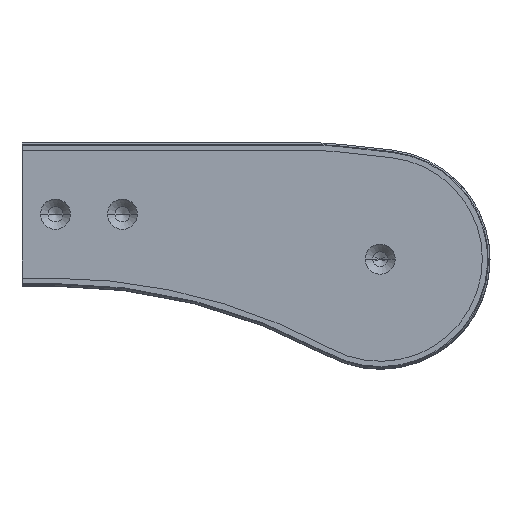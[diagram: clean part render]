
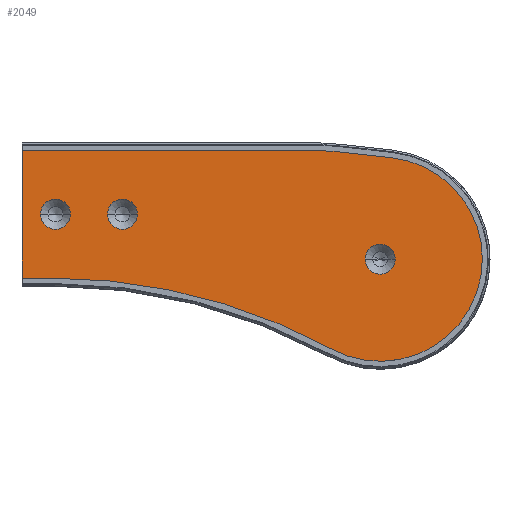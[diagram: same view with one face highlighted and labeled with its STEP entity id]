
A CAD part, top view. The second image highlights one B-rep face of the part: STEP entity #2049.
In plain terms, the highlighted planar face has unit normal (0, 0, 1).
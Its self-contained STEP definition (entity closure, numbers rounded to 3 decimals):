
#12 = CARTESIAN_POINT ( 'NONE',  ( 6.761, 60.624, 0. ) ) ;
#82 = ORIENTED_EDGE ( 'NONE', *, *, #1185, .T. ) ;
#91 = AXIS2_PLACEMENT_3D ( 'NONE', #636, #3279, #2991 ) ;
#114 = DIRECTION ( 'NONE',  ( 1., 0., 0. ) ) ;
#126 = CARTESIAN_POINT ( 'NONE',  ( -193.958, 26.862, 0. ) ) ;
#175 = CARTESIAN_POINT ( 'NONE',  ( 6.761, 60.624, 0. ) ) ;
#203 = EDGE_LOOP ( 'NONE', ( #3056, #249 ) ) ;
#214 = ORIENTED_EDGE ( 'NONE', *, *, #373, .T. ) ;
#219 = DIRECTION ( 'NONE',  ( 1., 0., 0. ) ) ;
#220 = CARTESIAN_POINT ( 'NONE',  ( -195.961, -11.288, 0. ) ) ;
#236 = AXIS2_PLACEMENT_3D ( 'NONE', #905, #2482, #1147 ) ;
#238 = ORIENTED_EDGE ( 'NONE', *, *, #1388, .T. ) ;
#249 = ORIENTED_EDGE ( 'NONE', *, *, #2150, .F. ) ;
#276 = AXIS2_PLACEMENT_3D ( 'NONE', #2308, #3370, #2033 ) ;
#283 = CARTESIAN_POINT ( 'NONE',  ( -202.918, 26.862, 0. ) ) ;
#316 = CARTESIAN_POINT ( 'NONE',  ( 8.96, 0., 0. ) ) ;
#349 = CARTESIAN_POINT ( 'NONE',  ( -43.607, 65.003, 0. ) ) ;
#357 = VECTOR ( 'NONE', #1154, 1000. ) ;
#373 = EDGE_CURVE ( 'NONE', #574, #400, #1200, .T. ) ;
#374 = ORIENTED_EDGE ( 'NONE', *, *, #2239, .F. ) ;
#389 = DIRECTION ( 'NONE',  ( -0.994, 0.111, 0. ) ) ;
#400 = VERTEX_POINT ( 'NONE', #2710 ) ;
#403 = LINE ( 'NONE', #2816, #2769 ) ;
#416 = CIRCLE ( 'NONE', #1512, 350.171 ) ;
#442 = LINE ( 'NONE', #12, #3307 ) ;
#447 = DIRECTION ( 'NONE',  ( 0., 0., 1. ) ) ;
#469 = AXIS2_PLACEMENT_3D ( 'NONE', #1757, #1263, #219 ) ;
#500 = VERTEX_POINT ( 'NONE', #1191 ) ;
#529 = EDGE_CURVE ( 'NONE', #500, #737, #2089, .T. ) ;
#541 = AXIS2_PLACEMENT_3D ( 'NONE', #126, #1732, #114 ) ;
#574 = VERTEX_POINT ( 'NONE', #3155 ) ;
#636 = CARTESIAN_POINT ( 'NONE',  ( 0., 0., 0. ) ) ;
#694 = CIRCLE ( 'NONE', #1085, 200. ) ;
#737 = VERTEX_POINT ( 'NONE', #283 ) ;
#781 = VERTEX_POINT ( 'NONE', #316 ) ;
#801 = DIRECTION ( 'NONE',  ( 0., 0., 1. ) ) ;
#832 = EDGE_LOOP ( 'NONE', ( #907, #374 ) ) ;
#861 = EDGE_CURVE ( 'NONE', #3163, #2183, #1120, .T. ) ;
#905 = CARTESIAN_POINT ( 'NONE',  ( -195.982, -361.459, 0. ) ) ;
#907 = ORIENTED_EDGE ( 'NONE', *, *, #2217, .F. ) ;
#959 = ORIENTED_EDGE ( 'NONE', *, *, #2934, .T. ) ;
#999 = DIRECTION ( 'NONE',  ( 0., 0., 1. ) ) ;
#1067 = CARTESIAN_POINT ( 'NONE',  ( -195.982, -361.459, 0. ) ) ;
#1085 = AXIS2_PLACEMENT_3D ( 'NONE', #1130, #2719, #2963 ) ;
#1087 = DIRECTION ( 'NONE',  ( 1., 0., 0. ) ) ;
#1098 = DIRECTION ( 'NONE',  ( 0., 0., -1. ) ) ;
#1106 = FACE_OUTER_BOUND ( 'NONE', #3144, .T. ) ;
#1108 = ORIENTED_EDGE ( 'NONE', *, *, #529, .F. ) ;
#1120 = CIRCLE ( 'NONE', #91, 61. ) ;
#1130 = CARTESIAN_POINT ( 'NONE',  ( -43.619, -134.997, 0. ) ) ;
#1147 = DIRECTION ( 'NONE',  ( 1., 0., 0. ) ) ;
#1154 = DIRECTION ( 'NONE',  ( -1., 0., 0. ) ) ;
#1170 = VERTEX_POINT ( 'NONE', #175 ) ;
#1185 = EDGE_CURVE ( 'NONE', #2183, #1170, #2316, .T. ) ;
#1191 = CARTESIAN_POINT ( 'NONE',  ( -184.998, 26.862, 0. ) ) ;
#1200 = LINE ( 'NONE', #349, #357 ) ;
#1207 = ORIENTED_EDGE ( 'NONE', *, *, #3044, .T. ) ;
#1208 = CARTESIAN_POINT ( 'NONE',  ( -213.961, -11.287, 0. ) ) ;
#1244 = CIRCLE ( 'NONE', #469, 8.96 ) ;
#1263 = DIRECTION ( 'NONE',  ( 0., 0., 1. ) ) ;
#1267 = AXIS2_PLACEMENT_3D ( 'NONE', #2793, #1721, #2818 ) ;
#1388 = EDGE_CURVE ( 'NONE', #3113, #574, #694, .T. ) ;
#1462 = CARTESIAN_POINT ( 'NONE',  ( -29.075, -53.625, 0. ) ) ;
#1467 = EDGE_CURVE ( 'NONE', #1170, #3113, #442, .T. ) ;
#1512 = AXIS2_PLACEMENT_3D ( 'NONE', #1067, #1098, #1087 ) ;
#1601 = AXIS2_PLACEMENT_3D ( 'NONE', #2558, #999, #2329 ) ;
#1624 = EDGE_CURVE ( 'NONE', #400, #3203, #403, .T. ) ;
#1721 = DIRECTION ( 'NONE',  ( 0., 0., 1. ) ) ;
#1732 = DIRECTION ( 'NONE',  ( 0., 0., 1. ) ) ;
#1738 = DIRECTION ( 'NONE',  ( 0., -1., 0. ) ) ;
#1752 = CIRCLE ( 'NONE', #2147, 8.96 ) ;
#1757 = CARTESIAN_POINT ( 'NONE',  ( 0., 0., 0. ) ) ;
#1780 = DIRECTION ( 'NONE',  ( 1., 0., 0. ) ) ;
#1844 = EDGE_CURVE ( 'NONE', #737, #500, #2468, .T. ) ;
#1848 = CARTESIAN_POINT ( 'NONE',  ( -144.998, 26.859, 0. ) ) ;
#1914 = LINE ( 'NONE', #2375, #3002 ) ;
#2030 = CARTESIAN_POINT ( 'NONE',  ( 61., 0., 0. ) ) ;
#2033 = DIRECTION ( 'NONE',  ( 1., 0., 0. ) ) ;
#2037 = VERTEX_POINT ( 'NONE', #3249 ) ;
#2049 = ADVANCED_FACE ( 'NONE', ( #2635, #2302, #3015, #1106 ), #2456, .T. ) ;
#2065 = VERTEX_POINT ( 'NONE', #2445 ) ;
#2089 = CIRCLE ( 'NONE', #1267, 8.96 ) ;
#2114 = ORIENTED_EDGE ( 'NONE', *, *, #1844, .F. ) ;
#2122 = CARTESIAN_POINT ( 'NONE',  ( 0., 0., 0. ) ) ;
#2143 = ORIENTED_EDGE ( 'NONE', *, *, #861, .T. ) ;
#2147 = AXIS2_PLACEMENT_3D ( 'NONE', #2122, #801, #3219 ) ;
#2150 = EDGE_CURVE ( 'NONE', #2065, #781, #1244, .T. ) ;
#2183 = VERTEX_POINT ( 'NONE', #2030 ) ;
#2217 = EDGE_CURVE ( 'NONE', #2975, #2037, #2848, .T. ) ;
#2239 = EDGE_CURVE ( 'NONE', #2037, #2975, #2632, .T. ) ;
#2302 = FACE_BOUND ( 'NONE', #832, .T. ) ;
#2308 = CARTESIAN_POINT ( 'NONE',  ( 0., 0., 0. ) ) ;
#2316 = CIRCLE ( 'NONE', #276, 61. ) ;
#2329 = DIRECTION ( 'NONE',  ( 1., 0., 0. ) ) ;
#2371 = ORIENTED_EDGE ( 'NONE', *, *, #1467, .T. ) ;
#2375 = CARTESIAN_POINT ( 'NONE',  ( -213.961, -11.287, 0. ) ) ;
#2445 = CARTESIAN_POINT ( 'NONE',  ( -8.96, 0., 0. ) ) ;
#2456 = PLANE ( 'NONE',  #236 ) ;
#2465 = CARTESIAN_POINT ( 'NONE',  ( -21.453, 63.771, 0. ) ) ;
#2468 = CIRCLE ( 'NONE', #541, 8.96 ) ;
#2482 = DIRECTION ( 'NONE',  ( 0., 0., 1. ) ) ;
#2489 = ORIENTED_EDGE ( 'NONE', *, *, #1624, .T. ) ;
#2558 = CARTESIAN_POINT ( 'NONE',  ( -153.958, 26.859, 0. ) ) ;
#2577 = CARTESIAN_POINT ( 'NONE',  ( -153.958, 26.859, 0. ) ) ;
#2614 = EDGE_LOOP ( 'NONE', ( #1108, #2114 ) ) ;
#2632 = CIRCLE ( 'NONE', #1601, 8.96 ) ;
#2635 = FACE_BOUND ( 'NONE', #2614, .T. ) ;
#2710 = CARTESIAN_POINT ( 'NONE',  ( -213.956, 65.013, 0. ) ) ;
#2716 = EDGE_CURVE ( 'NONE', #781, #2065, #1752, .T. ) ;
#2719 = DIRECTION ( 'NONE',  ( 0., 0., 1. ) ) ;
#2720 = AXIS2_PLACEMENT_3D ( 'NONE', #2577, #447, #1780 ) ;
#2769 = VECTOR ( 'NONE', #1738, 1000. ) ;
#2793 = CARTESIAN_POINT ( 'NONE',  ( -193.958, 26.862, 0. ) ) ;
#2816 = CARTESIAN_POINT ( 'NONE',  ( -213.956, 65.013, 0. ) ) ;
#2818 = DIRECTION ( 'NONE',  ( 1., 0., 0. ) ) ;
#2848 = CIRCLE ( 'NONE', #2720, 8.96 ) ;
#2934 = EDGE_CURVE ( 'NONE', #3445, #3163, #416, .T. ) ;
#2963 = DIRECTION ( 'NONE',  ( 1., 0., 0. ) ) ;
#2975 = VERTEX_POINT ( 'NONE', #1848 ) ;
#2991 = DIRECTION ( 'NONE',  ( 1., 0., 0. ) ) ;
#3002 = VECTOR ( 'NONE', #3205, 1000. ) ;
#3015 = FACE_BOUND ( 'NONE', #203, .T. ) ;
#3044 = EDGE_CURVE ( 'NONE', #3203, #3445, #1914, .T. ) ;
#3056 = ORIENTED_EDGE ( 'NONE', *, *, #2716, .F. ) ;
#3113 = VERTEX_POINT ( 'NONE', #2465 ) ;
#3144 = EDGE_LOOP ( 'NONE', ( #959, #2143, #82, #2371, #238, #214, #2489, #1207 ) ) ;
#3155 = CARTESIAN_POINT ( 'NONE',  ( -43.607, 65.003, 0. ) ) ;
#3163 = VERTEX_POINT ( 'NONE', #1462 ) ;
#3203 = VERTEX_POINT ( 'NONE', #1208 ) ;
#3205 = DIRECTION ( 'NONE',  ( 1., 0., 0. ) ) ;
#3219 = DIRECTION ( 'NONE',  ( 1., 0., 0. ) ) ;
#3249 = CARTESIAN_POINT ( 'NONE',  ( -162.918, 26.859, 0. ) ) ;
#3279 = DIRECTION ( 'NONE',  ( 0., 0., 1. ) ) ;
#3307 = VECTOR ( 'NONE', #389, 1000. ) ;
#3370 = DIRECTION ( 'NONE',  ( 0., 0., 1. ) ) ;
#3445 = VERTEX_POINT ( 'NONE', #220 ) ;
